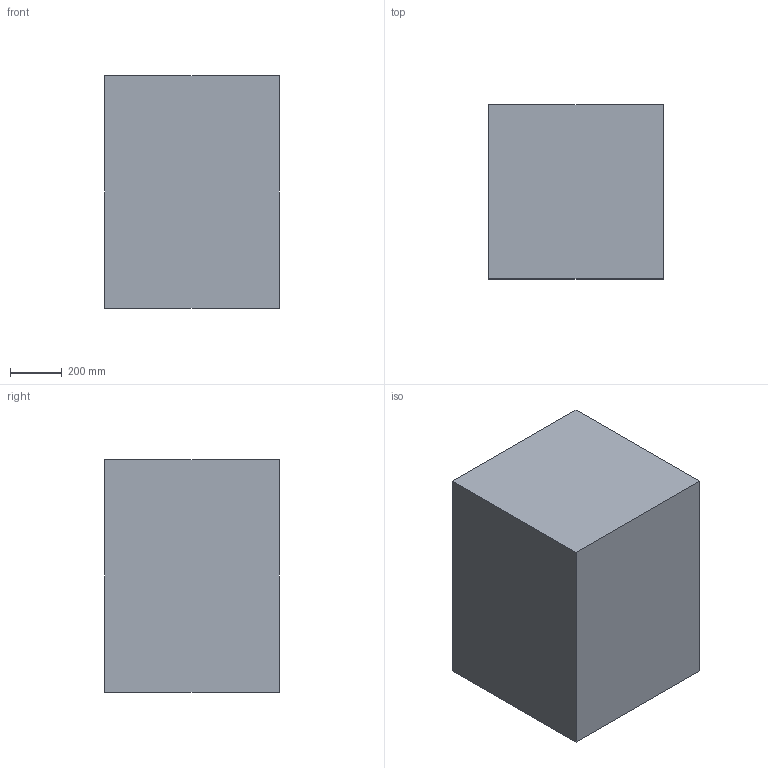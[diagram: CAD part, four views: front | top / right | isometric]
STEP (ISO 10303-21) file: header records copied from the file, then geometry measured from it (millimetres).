
FILE_DESCRIPTION (( 'STEP AP203' ), '1' );
FILE_NAME ('Extrabox Type F.STEP', '2019-01-15T13:44:07', ( '' ), ( '' ), 'SwSTEP 2.0', 'SolidWorks 2019', '' );
FILE_SCHEMA (( 'CONFIG_CONTROL_DESIGN' ));
Length unit declared in the file: millimetre
Products named in the file (1): Extrabox Type F
Bounding box: 675 x 675 x 900 mm (x, y, z)
Volume: 410062500 mm3; surface area: 3341250 mm2
Topology: 1 solids, 1 shells, 6 faces, 12 edges, 8 vertices
Faces by surface type: plane 6
Entity records: 233 total; most frequent: CARTESIAN_POINT 27, DIRECTION 26, ORIENTED_EDGE 24, EDGE_CURVE 12, VECTOR 12, LINE 12, PERSON_AND_ORGANIZATION 8, VERTEX_POINT 8
